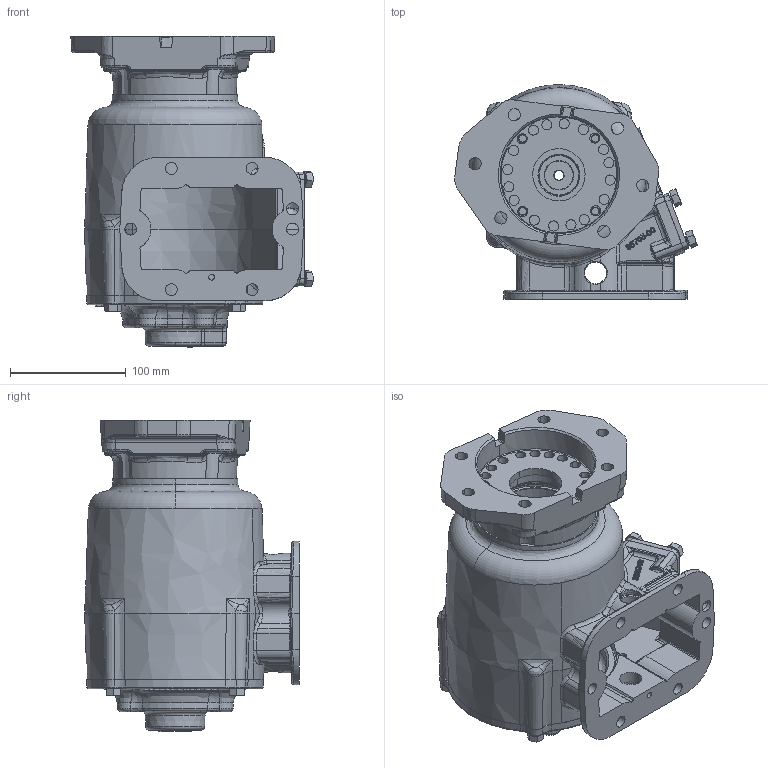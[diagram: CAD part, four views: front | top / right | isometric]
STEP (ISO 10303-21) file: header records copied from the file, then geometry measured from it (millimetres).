
FILE_DESCRIPTION (( 'STEP AP203' ), '1' );
FILE_NAME ('CS6B-XXXXX-H3LP.STEP', '2022-12-20T16:09:40', ( '' ), ( '' ), 'SwSTEP 2.0', 'SolidWorks 2021', '' );
FILE_SCHEMA (( 'CONFIG_CONTROL_DESIGN' ));
Length unit declared in the file: inch
Products named in the file (7): 01T37072.stp; 15T36717.stp; 16-18x1.stp; 16t33999.stp; CS6B-XXXXX-H3LP; 14T39163.stp; CS6-H3KP.stp
Assembly tree (13 placements, depth 3):
  CS6B-XXXXX-H3LP
    CS6-H3KP.stp
      01T37072.stp
      14T39163.stp
      16t33999.stp
      16-18x1.stp  x8
      15T36717.stp
Bounding box: 209.54 x 185.52 x 269.38 mm (x, y, z)
Volume: 1420668.7 mm3; surface area: 397770.3 mm2
Topology: 12 solids, 12 shells, 2116 faces, 5381 edges, 3319 vertices
Faces by surface type: bspline 1144, plane 357, cylinder 310, cone 229, torus 66, sphere 10
Entity records: 93617 total; most frequent: CARTESIAN_POINT 52693, ORIENTED_EDGE 9992, DIRECTION 5548, EDGE_CURVE 4996, VERTEX_POINT 3130, EDGE_LOOP 2172, B_SPLINE_CURVE_WITH_KNOTS 2095, AXIS2_PLACEMENT_3D 1977
